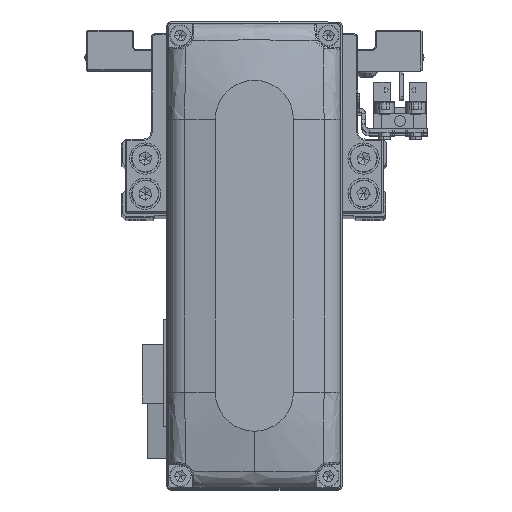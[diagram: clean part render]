
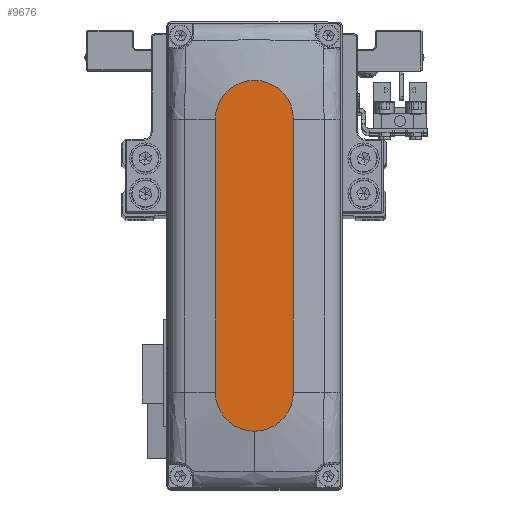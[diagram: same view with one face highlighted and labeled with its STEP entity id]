
A CAD part, top view. The second image highlights one B-rep face of the part: STEP entity #9676.
In plain terms, the highlighted planar face has unit normal (0, 0, 1).
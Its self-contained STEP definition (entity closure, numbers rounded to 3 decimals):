
#425 = FACE_OUTER_BOUND ( 'NONE', #31649, .T. ) ;
#891 = CARTESIAN_POINT ( 'NONE',  ( -35., 0., 28. ) ) ;
#2029 = CARTESIAN_POINT ( 'NONE',  ( -35., -10., 28. ) ) ;
#3156 = CARTESIAN_POINT ( 'NONE',  ( -35., -10., 28. ) ) ;
#4553 = CARTESIAN_POINT ( 'NONE',  ( 35., -10., 28. ) ) ;
#5086 = DIRECTION ( 'NONE',  ( -1., 0., 0. ) ) ;
#7070 = CARTESIAN_POINT ( 'NONE',  ( 45., 0., 28. ) ) ;
#8957 = DIRECTION ( 'NONE',  ( 1., 0., 0. ) ) ;
#9623 = DIRECTION ( 'NONE',  ( 1., 0., 0. ) ) ;
#9676 = ADVANCED_FACE ( 'NONE', ( #425 ), #12641, .T. ) ;
#10048 = AXIS2_PLACEMENT_3D ( 'NONE', #24814, #36939, #9623 ) ;
#10294 = VERTEX_POINT ( 'NONE', #4553 ) ;
#10555 = DIRECTION ( 'NONE',  ( 0., 0., 1. ) ) ;
#12641 = PLANE ( 'NONE',  #10048 ) ;
#13101 = DIRECTION ( 'NONE',  ( 0., 0., 1. ) ) ;
#13803 = CIRCLE ( 'NONE', #36052, 10. ) ;
#14168 = CARTESIAN_POINT ( 'NONE',  ( -35., 10., 28. ) ) ;
#14243 = DIRECTION ( 'NONE',  ( 1., 0., 0. ) ) ;
#14435 = ORIENTED_EDGE ( 'NONE', *, *, #35731, .T. ) ;
#15937 = ORIENTED_EDGE ( 'NONE', *, *, #33238, .T. ) ;
#16035 = EDGE_CURVE ( 'NONE', #26639, #33294, #13803, .T. ) ;
#16160 = VECTOR ( 'NONE', #14243, 1000. ) ;
#18665 = AXIS2_PLACEMENT_3D ( 'NONE', #24153, #36276, #8957 ) ;
#19599 = ORIENTED_EDGE ( 'NONE', *, *, #21727, .T. ) ;
#20279 = LINE ( 'NONE', #32420, #27737 ) ;
#20675 = CARTESIAN_POINT ( 'NONE',  ( 35., 10., 28. ) ) ;
#20735 = AXIS2_PLACEMENT_3D ( 'NONE', #37843, #10555, #22739 ) ;
#21727 = EDGE_CURVE ( 'NONE', #33294, #10294, #29384, .T. ) ;
#22739 = DIRECTION ( 'NONE',  ( 1., 0., 0. ) ) ;
#23539 = EDGE_CURVE ( 'NONE', #30614, #26639, #20279, .T. ) ;
#24153 = CARTESIAN_POINT ( 'NONE',  ( 35., 0., 28. ) ) ;
#24814 = CARTESIAN_POINT ( 'NONE',  ( 0., 0., 28. ) ) ;
#25268 = DIRECTION ( 'NONE',  ( 1., 0., 0. ) ) ;
#26639 = VERTEX_POINT ( 'NONE', #14168 ) ;
#27320 = VERTEX_POINT ( 'NONE', #7070 ) ;
#27737 = VECTOR ( 'NONE', #5086, 1000. ) ;
#29384 = LINE ( 'NONE', #2029, #16160 ) ;
#30614 = VERTEX_POINT ( 'NONE', #20675 ) ;
#31649 = EDGE_LOOP ( 'NONE', ( #38650, #35098, #19599, #15937, #14435 ) ) ;
#32420 = CARTESIAN_POINT ( 'NONE',  ( -35., 10., 28. ) ) ;
#33238 = EDGE_CURVE ( 'NONE', #10294, #27320, #35831, .T. ) ;
#33294 = VERTEX_POINT ( 'NONE', #3156 ) ;
#35098 = ORIENTED_EDGE ( 'NONE', *, *, #16035, .T. ) ;
#35731 = EDGE_CURVE ( 'NONE', #27320, #30614, #37893, .T. ) ;
#35831 = CIRCLE ( 'NONE', #18665, 10. ) ;
#36052 = AXIS2_PLACEMENT_3D ( 'NONE', #891, #13101, #25268 ) ;
#36276 = DIRECTION ( 'NONE',  ( 0., 0., 1. ) ) ;
#36939 = DIRECTION ( 'NONE',  ( 0., 0., 1. ) ) ;
#37843 = CARTESIAN_POINT ( 'NONE',  ( 35., 0., 28. ) ) ;
#37893 = CIRCLE ( 'NONE', #20735, 10. ) ;
#38650 = ORIENTED_EDGE ( 'NONE', *, *, #23539, .T. ) ;
